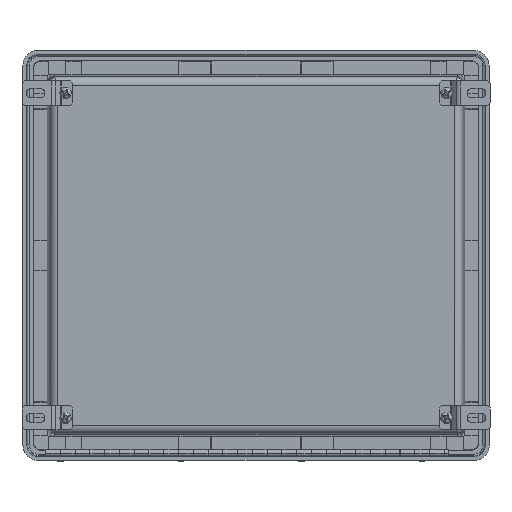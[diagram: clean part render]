
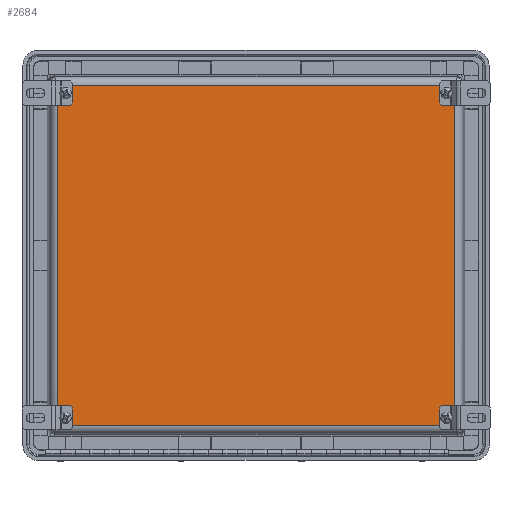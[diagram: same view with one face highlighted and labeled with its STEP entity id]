
A CAD part, front view. The second image highlights one B-rep face of the part: STEP entity #2684.
In plain terms, the highlighted planar face has unit normal (0, -1, 0).
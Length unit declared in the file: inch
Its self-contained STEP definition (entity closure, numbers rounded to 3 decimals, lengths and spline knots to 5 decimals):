
#953 = VERTEX_POINT ( 'NONE', #16198 ) ;
#954 = VERTEX_POINT ( 'NONE', #16204 ) ;
#1009 = VERTEX_POINT ( 'NONE', #16241 ) ;
#1018 = VERTEX_POINT ( 'NONE', #16250 ) ;
#1020 = VERTEX_POINT ( 'NONE', #16252 ) ;
#1021 = VERTEX_POINT ( 'NONE', #16253 ) ;
#2087 = EDGE_LOOP ( 'NONE', ( #4503, #4504 ) ) ;
#2116 = EDGE_LOOP ( 'NONE', ( #4511, #4512 ) ) ;
#2119 = EDGE_LOOP ( 'NONE', ( #4501, #4502 ) ) ;
#2120 = EDGE_LOOP ( 'NONE', ( #4509, #4510 ) ) ;
#2122 = EDGE_LOOP ( 'NONE', ( #4505, #4506, #4507, #4508 ) ) ;
#2684 = ADVANCED_FACE ( 'NONE', ( #17066, #17061, #17069, #17071, #17065 ), #17067, .T. ) ;
#2837 = EDGE_CURVE ( 'NONE', #45855, #45856, #13883, .T. ) ;
#2845 = EDGE_CURVE ( 'NONE', #45864, #45865, #13893, .T. ) ;
#2853 = EDGE_CURVE ( 'NONE', #45871, #45872, #13907, .T. ) ;
#2861 = EDGE_CURVE ( 'NONE', #953, #954, #13917, .T. ) ;
#2912 = EDGE_CURVE ( 'NONE', #45872, #45871, #13967, .T. ) ;
#2913 = EDGE_CURVE ( 'NONE', #954, #953, #13966, .T. ) ;
#2914 = EDGE_CURVE ( 'NONE', #1009, #1018, #18100, .T. ) ;
#2915 = EDGE_CURVE ( 'NONE', #1018, #1020, #18105, .T. ) ;
#2916 = EDGE_CURVE ( 'NONE', #1020, #1021, #18112, .T. ) ;
#2917 = EDGE_CURVE ( 'NONE', #1021, #1009, #18115, .T. ) ;
#2918 = EDGE_CURVE ( 'NONE', #45865, #45864, #13974, .T. ) ;
#2919 = EDGE_CURVE ( 'NONE', #45856, #45855, #13975, .T. ) ;
#4501 = ORIENTED_EDGE ( 'NONE', *, *, #2853, .T. ) ;
#4502 = ORIENTED_EDGE ( 'NONE', *, *, #2912, .T. ) ;
#4503 = ORIENTED_EDGE ( 'NONE', *, *, #2913, .F. ) ;
#4504 = ORIENTED_EDGE ( 'NONE', *, *, #2861, .F. ) ;
#4505 = ORIENTED_EDGE ( 'NONE', *, *, #2914, .T. ) ;
#4506 = ORIENTED_EDGE ( 'NONE', *, *, #2915, .T. ) ;
#4507 = ORIENTED_EDGE ( 'NONE', *, *, #2916, .T. ) ;
#4508 = ORIENTED_EDGE ( 'NONE', *, *, #2917, .T. ) ;
#4509 = ORIENTED_EDGE ( 'NONE', *, *, #2918, .F. ) ;
#4510 = ORIENTED_EDGE ( 'NONE', *, *, #2845, .F. ) ;
#4511 = ORIENTED_EDGE ( 'NONE', *, *, #2837, .T. ) ;
#4512 = ORIENTED_EDGE ( 'NONE', *, *, #2919, .T. ) ;
#13726 = AXIS2_PLACEMENT_3D ( 'NONE', #17070, #17073, #17074 ) ;
#13883 = CIRCLE ( 'NONE', #13885, 0.1405 ) ;
#13885 = AXIS2_PLACEMENT_3D ( 'NONE', #17733, #17734, #17735 ) ;
#13893 = CIRCLE ( 'NONE', #13897, 0.1405 ) ;
#13897 = AXIS2_PLACEMENT_3D ( 'NONE', #17757, #17758, #17759 ) ;
#13907 = CIRCLE ( 'NONE', #13909, 0.1405 ) ;
#13909 = AXIS2_PLACEMENT_3D ( 'NONE', #17781, #17782, #17783 ) ;
#13917 = CIRCLE ( 'NONE', #13921, 0.1405 ) ;
#13921 = AXIS2_PLACEMENT_3D ( 'NONE', #17805, #17806, #17807 ) ;
#13963 = VECTOR ( 'NONE', #18111, 39.37008 ) ;
#13966 = CIRCLE ( 'NONE', #13970, 0.1405 ) ;
#13967 = CIRCLE ( 'NONE', #13968, 0.1405 ) ;
#13968 = AXIS2_PLACEMENT_3D ( 'NONE', #18102, #18103, #18104 ) ;
#13969 = VECTOR ( 'NONE', #18109, 39.37008 ) ;
#13970 = AXIS2_PLACEMENT_3D ( 'NONE', #18106, #18107, #18108 ) ;
#13972 = VECTOR ( 'NONE', #18114, 39.37008 ) ;
#13973 = VECTOR ( 'NONE', #18117, 39.37008 ) ;
#13974 = CIRCLE ( 'NONE', #13976, 0.1405 ) ;
#13975 = CIRCLE ( 'NONE', #13978, 0.1405 ) ;
#13976 = AXIS2_PLACEMENT_3D ( 'NONE', #18120, #18121, #18122 ) ;
#13978 = AXIS2_PLACEMENT_3D ( 'NONE', #18125, #18126, #18127 ) ;
#16198 = CARTESIAN_POINT ( 'NONE',  ( 6.45, -6.1, 5.6405 ) ) ;
#16204 = CARTESIAN_POINT ( 'NONE',  ( 6.45, -6.1, 5.3595 ) ) ;
#16241 = CARTESIAN_POINT ( 'NONE',  ( 6.7168, -6.1, 5.7668 ) ) ;
#16250 = CARTESIAN_POINT ( 'NONE',  ( -6.7168, -6.1, 5.7668 ) ) ;
#16252 = CARTESIAN_POINT ( 'NONE',  ( -6.7168, -6.1, -5.7668 ) ) ;
#16253 = CARTESIAN_POINT ( 'NONE',  ( 6.7168, -6.1, -5.7668 ) ) ;
#17061 = FACE_BOUND ( 'NONE', #2087, .T. ) ;
#17065 = FACE_BOUND ( 'NONE', #2116, .T. ) ;
#17066 = FACE_BOUND ( 'NONE', #2119, .T. ) ;
#17067 = PLANE ( 'NONE',  #13726 ) ;
#17069 = FACE_OUTER_BOUND ( 'NONE', #2122, .T. ) ;
#17070 = CARTESIAN_POINT ( 'NONE',  ( -6.824, -6.1, -5.874 ) ) ;
#17071 = FACE_BOUND ( 'NONE', #2120, .T. ) ;
#17073 = DIRECTION ( 'NONE',  ( 0., -1., 0. ) ) ;
#17074 = DIRECTION ( 'NONE',  ( 0., 0., -1. ) ) ;
#17733 = CARTESIAN_POINT ( 'NONE',  ( 6.45, -6.1, -5.5 ) ) ;
#17734 = DIRECTION ( 'NONE',  ( 0., 1., 0. ) ) ;
#17735 = DIRECTION ( 'NONE',  ( 0., 0., 1. ) ) ;
#17757 = CARTESIAN_POINT ( 'NONE',  ( -6.45, -6.1, -5.5 ) ) ;
#17758 = DIRECTION ( 'NONE',  ( 0., -1., 0. ) ) ;
#17759 = DIRECTION ( 'NONE',  ( 0., 0., 1. ) ) ;
#17781 = CARTESIAN_POINT ( 'NONE',  ( -6.45, -6.1, 5.5 ) ) ;
#17782 = DIRECTION ( 'NONE',  ( 0., 1., 0. ) ) ;
#17783 = DIRECTION ( 'NONE',  ( 0., 0., -1. ) ) ;
#17805 = CARTESIAN_POINT ( 'NONE',  ( 6.45, -6.1, 5.5 ) ) ;
#17806 = DIRECTION ( 'NONE',  ( 0., -1., 0. ) ) ;
#17807 = DIRECTION ( 'NONE',  ( 0., 0., -1. ) ) ;
#18100 = LINE ( 'NONE', #18101, #13969 ) ;
#18101 = CARTESIAN_POINT ( 'NONE',  ( -6.824, -6.1, 5.7668 ) ) ;
#18102 = CARTESIAN_POINT ( 'NONE',  ( -6.45, -6.1, 5.5 ) ) ;
#18103 = DIRECTION ( 'NONE',  ( 0., 1., 0. ) ) ;
#18104 = DIRECTION ( 'NONE',  ( 0., 0., -1. ) ) ;
#18105 = LINE ( 'NONE', #18110, #13963 ) ;
#18106 = CARTESIAN_POINT ( 'NONE',  ( 6.45, -6.1, 5.5 ) ) ;
#18107 = DIRECTION ( 'NONE',  ( 0., -1., 0. ) ) ;
#18108 = DIRECTION ( 'NONE',  ( 0., 0., -1. ) ) ;
#18109 = DIRECTION ( 'NONE',  ( -1., 0., 0. ) ) ;
#18110 = CARTESIAN_POINT ( 'NONE',  ( -6.7168, -6.1, -5.874 ) ) ;
#18111 = DIRECTION ( 'NONE',  ( 0., 0., -1. ) ) ;
#18112 = LINE ( 'NONE', #18113, #13972 ) ;
#18113 = CARTESIAN_POINT ( 'NONE',  ( -6.824, -6.1, -5.7668 ) ) ;
#18114 = DIRECTION ( 'NONE',  ( 1., 0., 0. ) ) ;
#18115 = LINE ( 'NONE', #18116, #13973 ) ;
#18116 = CARTESIAN_POINT ( 'NONE',  ( 6.7168, -6.1, -5.874 ) ) ;
#18117 = DIRECTION ( 'NONE',  ( 0., 0., 1. ) ) ;
#18120 = CARTESIAN_POINT ( 'NONE',  ( -6.45, -6.1, -5.5 ) ) ;
#18121 = DIRECTION ( 'NONE',  ( 0., -1., 0. ) ) ;
#18122 = DIRECTION ( 'NONE',  ( 0., 0., 1. ) ) ;
#18125 = CARTESIAN_POINT ( 'NONE',  ( 6.45, -6.1, -5.5 ) ) ;
#18126 = DIRECTION ( 'NONE',  ( 0., 1., 0. ) ) ;
#18127 = DIRECTION ( 'NONE',  ( 0., 0., 1. ) ) ;
#40312 = CARTESIAN_POINT ( 'NONE',  ( 6.45, -6.1, -5.3595 ) ) ;
#40313 = CARTESIAN_POINT ( 'NONE',  ( 6.45, -6.1, -5.6405 ) ) ;
#40321 = CARTESIAN_POINT ( 'NONE',  ( -6.45, -6.1, -5.6405 ) ) ;
#40322 = CARTESIAN_POINT ( 'NONE',  ( -6.45, -6.1, -5.3595 ) ) ;
#40328 = CARTESIAN_POINT ( 'NONE',  ( -6.45, -6.1, 5.3595 ) ) ;
#40329 = CARTESIAN_POINT ( 'NONE',  ( -6.45, -6.1, 5.6405 ) ) ;
#45855 = VERTEX_POINT ( 'NONE', #40312 ) ;
#45856 = VERTEX_POINT ( 'NONE', #40313 ) ;
#45864 = VERTEX_POINT ( 'NONE', #40321 ) ;
#45865 = VERTEX_POINT ( 'NONE', #40322 ) ;
#45871 = VERTEX_POINT ( 'NONE', #40328 ) ;
#45872 = VERTEX_POINT ( 'NONE', #40329 ) ;
